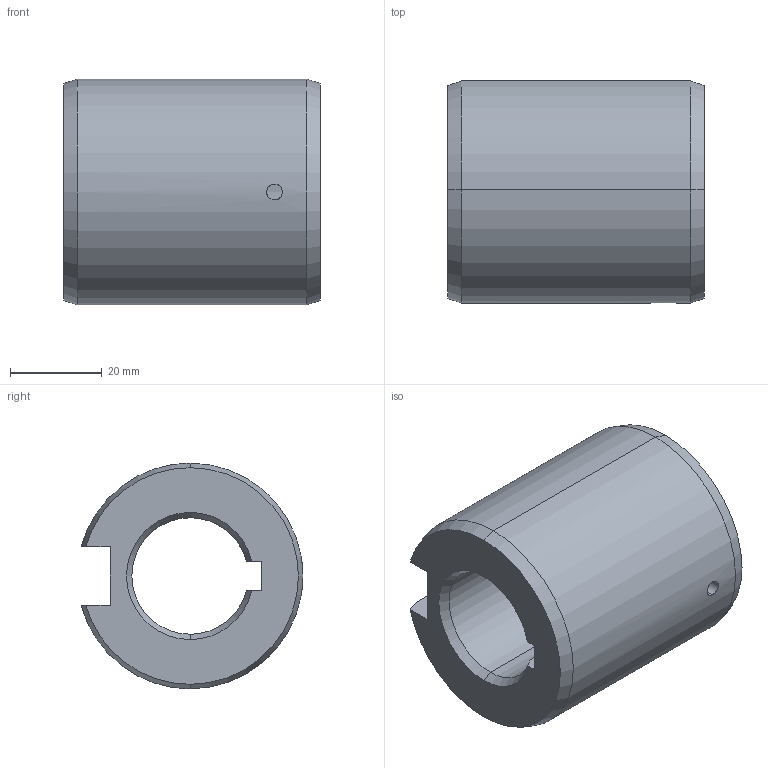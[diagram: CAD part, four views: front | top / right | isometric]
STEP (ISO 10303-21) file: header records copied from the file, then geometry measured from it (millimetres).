
FILE_DESCRIPTION (( 'STEP AP203' ), '1' );
FILE_NAME ('KBSH066P16.STEP', '2023-08-01T05:21:14', ( '' ), ( '' ), 'SwSTEP 2.0', 'SolidWorks 2017', '' );
FILE_SCHEMA (( 'CONFIG_CONTROL_DESIGN' ));
Length unit declared in the file: millimetre
Products named in the file (1): KBSH066P16
Bounding box: 56 x 48.38 x 49.21 mm (x, y, z)
Volume: 71474.8 mm3; surface area: 16473.4 mm2
Topology: 1 solids, 1 shells, 28 faces, 70 edges, 44 vertices
Faces by surface type: cone 12, cylinder 8, plane 8
Entity records: 979 total; most frequent: CARTESIAN_POINT 221, DIRECTION 144, ORIENTED_EDGE 140, EDGE_CURVE 70, AXIS2_PLACEMENT_3D 55, VERTEX_POINT 44, VECTOR 34, LINE 34
